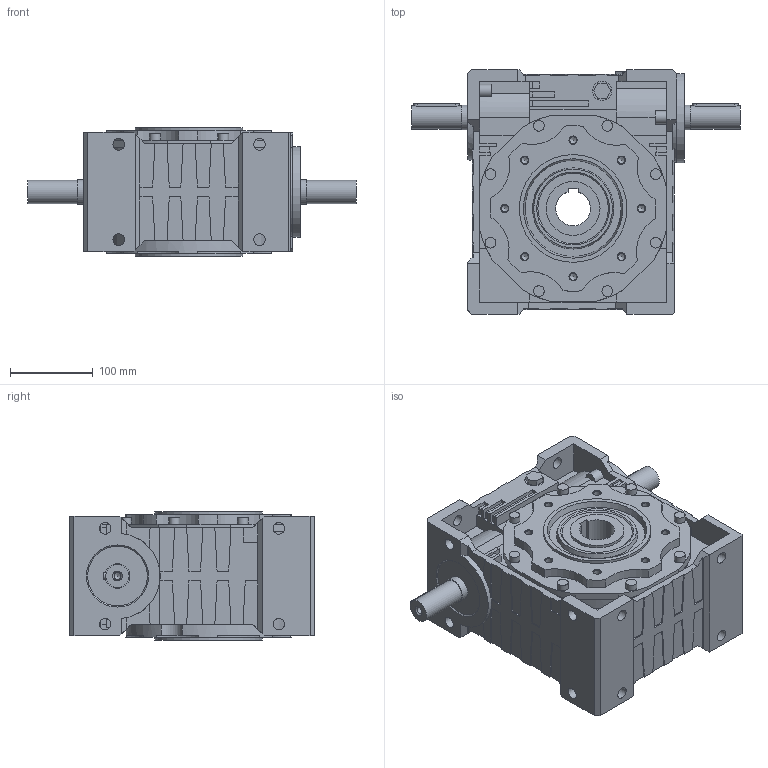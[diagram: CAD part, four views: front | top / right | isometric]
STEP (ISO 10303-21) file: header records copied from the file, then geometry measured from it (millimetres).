
FILE_DESCRIPTION((''),'2;1');
FILE_NAME('C:\Users\Ruben\Documents\Inventor\stage motors\Wormwielkast JRSTB (dubbele) Volle ingaande as\JRSTB110 (dubbele) Volle ingaande as\JRSTB110 (dubbele) Volle ingaande as.stp','2013-10-17T09:06:22',('Ruben'),(''),'Autodesk Inventor 2013','Autodesk Inventor 2013','');
FILE_SCHEMA(('AUTOMOTIVE_DESIGN { 1 0 10303 214 1 1 1 1 }'));
Length unit declared in the file: millimetre
Products named in the file (3): JRSTB110 (dubbele) Volle ingaande as; 1; 2
Assembly tree (2 placements, depth 2):
  JRSTB110 (dubbele) Volle ingaande as
    1
    2
Bounding box: 397 x 295 x 155 mm (x, y, z)
Volume: 8672181.3 mm3; surface area: 541941.3 mm2
Topology: 2 solids, 3 shells, 663 faces, 1814 edges, 1186 vertices
Faces by surface type: plane 486, cylinder 130, cone 45, bspline 2
Full cylindrical faces by diameter (mm): 8.376 x18, 13 x8, 14 x12, 22 x1, 23 x2, 25 x1, 28 x2, 30 x3, 49 x1, 56 x1, 65 x2, 130 x2
Entity records: 21002 total; most frequent: CARTESIAN_POINT 3687, DIRECTION 3396, ORIENTED_EDGE 3374, EDGE_CURVE 1687, VECTOR 1282, LINE 1282, VERTEX_POINT 1157, AXIS2_PLACEMENT_3D 1057
